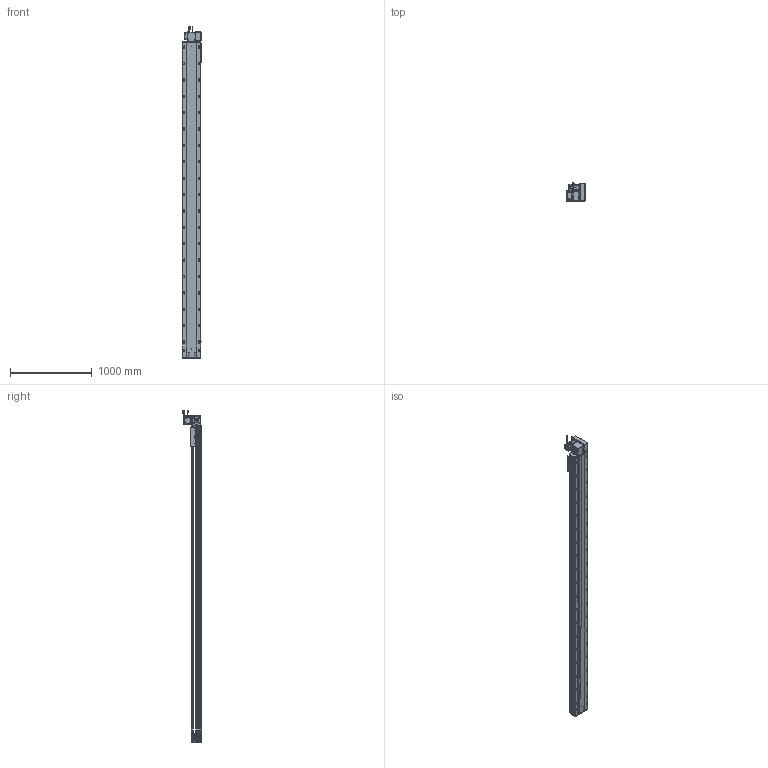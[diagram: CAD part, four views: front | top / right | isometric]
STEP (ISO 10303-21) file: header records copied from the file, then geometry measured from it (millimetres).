
FILE_DESCRIPTION (( 'STEP AP203' ), '1' );
FILE_NAME ('RY220-T-300-UR.SLDASM_3500.step', '2022-07-25T08:46:55', ( '' ), ( '' ), 'SwSTEP 2.0', 'SolidWorks 2016', '' );
FILE_SCHEMA (( 'CONFIG_CONTROL_DESIGN' ));
Length unit declared in the file: millimetre
Products named in the file (14): RY220圉猾敕々湍臏賑輸; RY220-T菁釱-300_3500; RY220翋肮祭謫釱; 滅袉蝶18-15; RY220-T-湍謫欶(鍼踢); RY220-同步轮副支撑座6304×2; RY220-T-蛌殏萇儂假蚾啣(750W); RY220-T-300-UR.SLDASM_3500; 110A-T-肮祭謫釱傷裔; 怢湛750W_ECMA-CX0807ES; 覜茼ん672; RY220-T-300-奻裔啣_3500; RY220翋肮祭謫裔啣; RY220-俋离672覜茼んえ
Assembly tree (18 placements, depth 2):
  RY220-T-300-UR.SLDASM_3500
    RY220-T菁釱-300_3500
    RY220翋肮祭謫釱
    覜茼ん672  x3
    RY220圉猾敕々湍臏賑輸
    RY220-T-300-奻裔啣_3500
    RY220-俋离672覜茼んえ
    滅袉蝶18-15  x3
    RY220翋肮祭謫裔啣  x2
    110A-T-肮祭謫釱傷裔
    怢湛750W_ECMA-CX0807ES
    RY220-T-湍謫欶(鍼踢)
    RY220-T-蛌殏萇儂假蚾啣(750W)
    RY220-同步轮副支撑座6304×2
Bounding box: 238.7 x 231.74 x 4053.27 mm (x, y, z)
Volume: 28437650.5 mm3; surface area: 8854049.8 mm2
Topology: 19 solids, 19 shells, 3134 faces, 8679 edges, 5416 vertices
Faces by surface type: cylinder 1570, plane 1069, cone 413, bspline 56, sphere 16, torus 10
Entity records: 104659 total; most frequent: CARTESIAN_POINT 29445, ORIENTED_EDGE 15514, DIRECTION 15072, EDGE_CURVE 7757, AXIS2_PLACEMENT_3D 5472, VERTEX_POINT 5040, LINE 4128, VECTOR 4128
